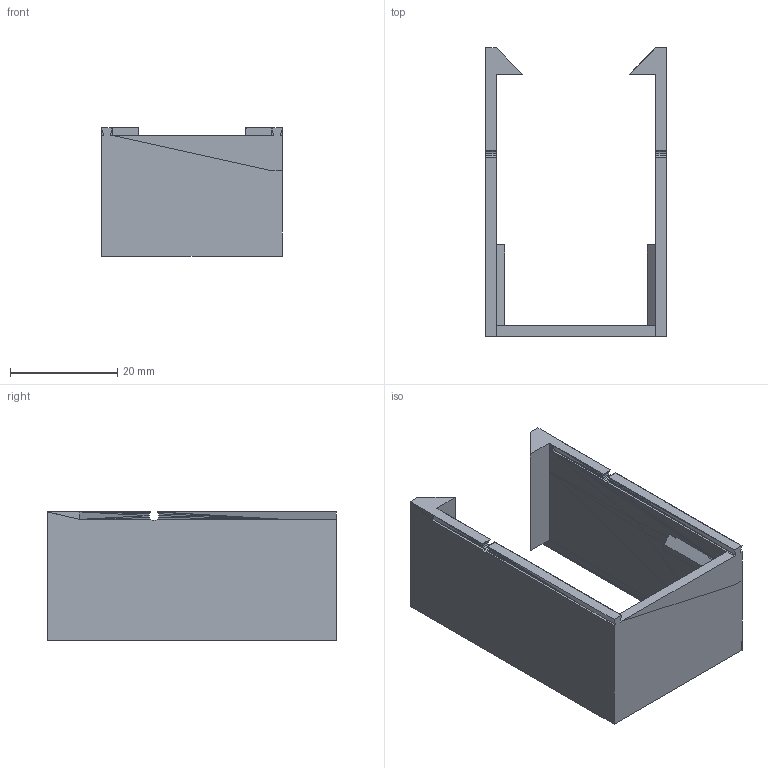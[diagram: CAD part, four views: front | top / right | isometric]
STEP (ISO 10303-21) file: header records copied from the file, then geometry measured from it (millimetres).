
FILE_DESCRIPTION(('Open CASCADE Model'),'2;1');
FILE_NAME('Open CASCADE Shape Model','2026-10-17T14:06:44',('Author'),( 'Open CASCADE'),'Open CASCADE STEP processor 8.0','build123d', 'Unknown');
FILE_SCHEMA(('AUTOMOTIVE_DESIGN { 1 0 10303 214 1 1 1 1 }'));
Length unit declared in the file: millimetre
Products named in the file (1): SOLID
Bounding box: 33.8 x 53.9 x 23.95 mm (x, y, z)
Surface area: 7932.2 mm2 (no closed solid volume)
Topology: 0 solids, 1 shells, 201 faces, 383 edges, 183 vertices
Faces by surface type: plane 201
Entity records: 9553 total; most frequent: CARTESIAN_POINT 1692, DIRECTION 1411, LINE 1007, VECTOR 1007, ORIENTED_EDGE 770, PCURVE 770, DEFINITIONAL_REPRESENTATION 770, EDGE_CURVE 386
